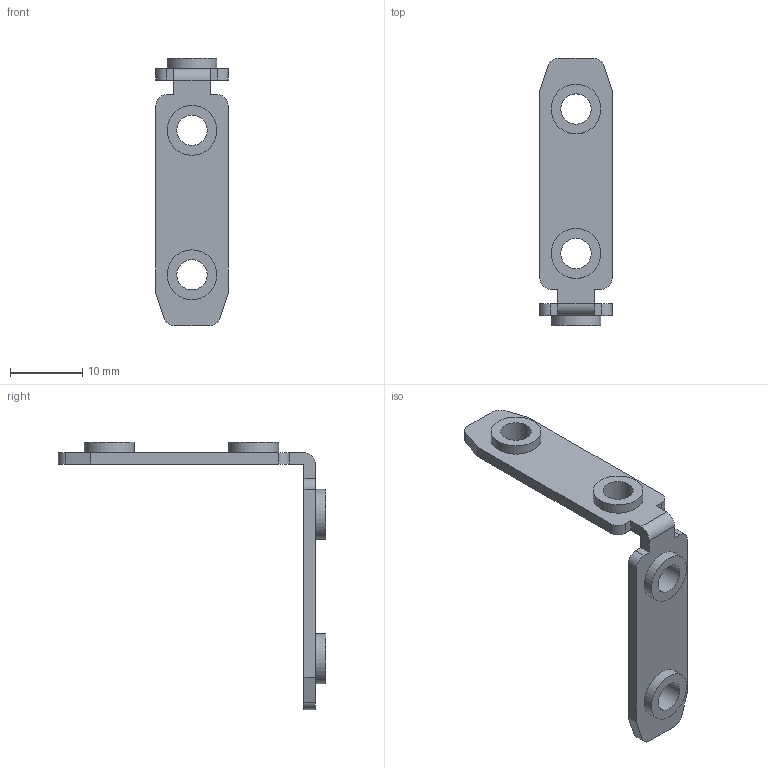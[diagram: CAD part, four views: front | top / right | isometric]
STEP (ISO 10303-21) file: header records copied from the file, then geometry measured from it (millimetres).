
FILE_DESCRIPTION(/* description */ ('','CAx-IF Rec.Pracs.---Representation and Presentation of Product Manufacturing Information (PMI)---4.0---2014-10-13'),/* implementation_level */ '2;1');
FILE_NAME(/* name */ 'Inner Link Connector - Butt.step',/* time_stamp */ '2025-01-11T15:54:00+02:00',/* author */ (''),/* organization */ (''),/* preprocessor_version */ 'ST-DEVELOPER v20',/* originating_system */ 'Autodesk Translation Framework v13.20.0.188',/* authorisation */ '');
FILE_SCHEMA (('AP242_MANAGED_MODEL_BASED_3D_ENGINEERING_MIM_LF { 1 0 10303 442 1 1 4 }'));
Length unit declared in the file: millimetre
Products named in the file (1): Inner Link Connector - Butt
Bounding box: 10 x 37 x 37 mm (x, y, z)
Volume: 1083.1 mm3; surface area: 1724.5 mm2
Topology: 1 solids, 1 shells, 41 faces, 105 edges, 70 vertices
Faces by surface type: plane 24, cylinder 17
Full cylindrical faces by diameter (mm): 4.2 x4, 6.9 x4
Entity records: 1302 total; most frequent: DIRECTION 223, CARTESIAN_POINT 217, ORIENTED_EDGE 210, EDGE_CURVE 105, AXIS2_PLACEMENT_3D 76, LINE 71, VECTOR 71, VERTEX_POINT 70
